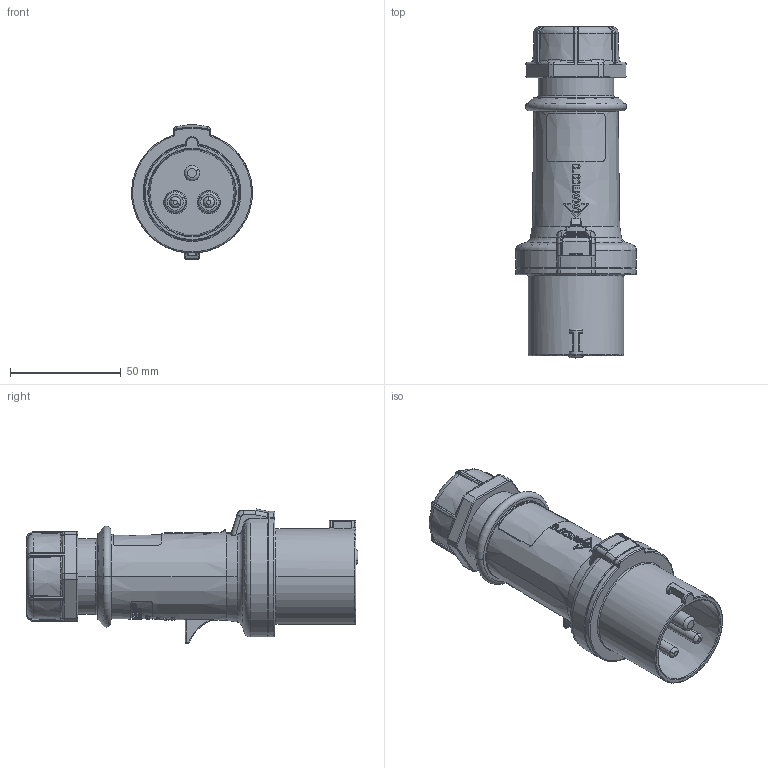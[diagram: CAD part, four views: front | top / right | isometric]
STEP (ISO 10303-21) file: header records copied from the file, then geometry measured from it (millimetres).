
FILE_DESCRIPTION((''),'2;1');
FILE_NAME('948','2018-10-19T',('fries'),('MENNEKES'),'PRO/ENGINEER BY PARAMETRIC TECHNOLOGY CORPORATION, 2015440','PRO/ENGINEER BY PARAMETRIC TECHNOLOGY CORPORATION, 2015440','');
FILE_SCHEMA(('AUTOMOTIVE_DESIGN { 1 0 10303 214 1 1 1 1 }'));
Products named in the file (1): 948
Bounding box: 54.53 x 149.8 x 60.47 mm (x, y, z)
Volume: 160748.8 mm3; surface area: 33516 mm2
Topology: 1 solids, 1 shells, 1811 faces, 5043 edges, 3299 vertices
Faces by surface type: plane 1141, extrusion 242, cylinder 145, torus 112, cone 93, bspline 78
Entity records: 77691 total; most frequent: CARTESIAN_POINT 20337, ORIENTED_EDGE 10086, DIRECTION 7412, EDGE_CURVE 5043, VERTEX_POINT 3299, VECTOR 2878, LINE 2636, AXIS2_PLACEMENT_3D 2267
